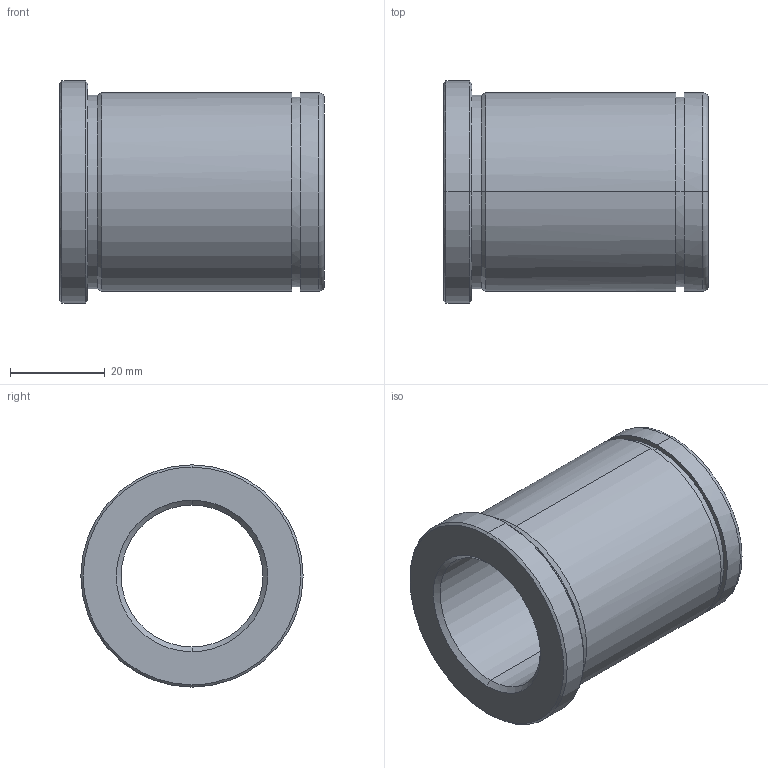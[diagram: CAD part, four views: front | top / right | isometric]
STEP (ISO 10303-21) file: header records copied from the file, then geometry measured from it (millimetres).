
FILE_DESCRIPTION(('CATIA V5 STEP Exchange'),'2;1');
FILE_NAME('C:\Users\Utente\Desktop\IO LAVORO\3D X SITO CF\X SITO\PLASTICA\553\553-30X56.stp','2021-05-26T18:25:34+00:00',('none'),('none'),'CATIA Version 5 Release 20 GA (IN-10)','CATIA V5 STEP AP203','none');
FILE_SCHEMA(('CONFIG_CONTROL_DESIGN'));
Length unit declared in the file: millimetre
Products named in the file (1): 553-30X56
Bounding box: 56 x 47 x 47 mm (x, y, z)
Volume: 39444.5 mm3; surface area: 14830.3 mm2
Topology: 1 solids, 1 shells, 29 faces, 92 edges, 68 vertices
Faces by surface type: cylinder 12, cone 8, plane 5, torus 4
Entity records: 1228 total; most frequent: CARTESIAN_POINT 378, ORIENTED_EDGE 184, DIRECTION 134, EDGE_CURVE 92, AXIS2_PLACEMENT_3D 86, VERTEX_POINT 68, CIRCLE 56, EDGE_LOOP 34
